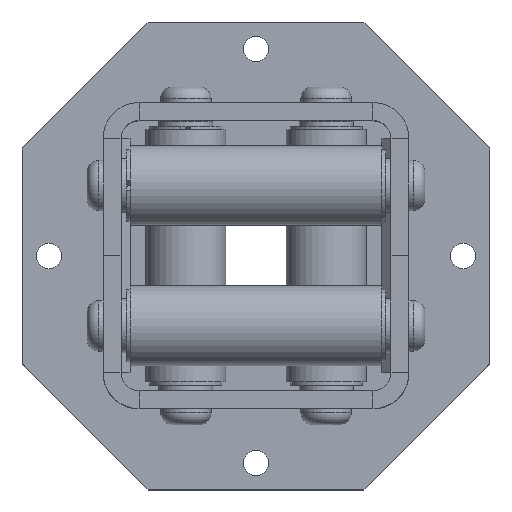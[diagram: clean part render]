
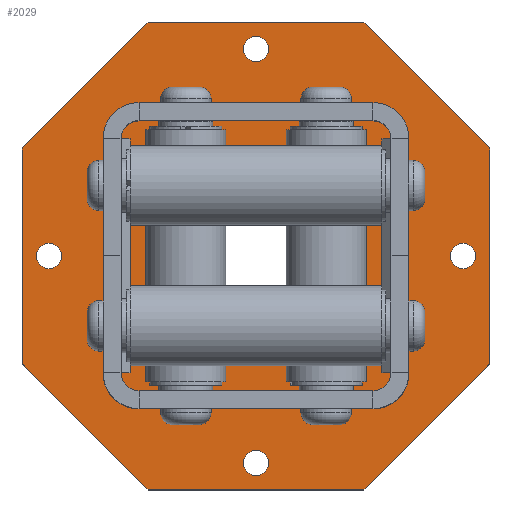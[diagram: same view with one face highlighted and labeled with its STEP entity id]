
A CAD part, top view. The second image highlights one B-rep face of the part: STEP entity #2029.
In plain terms, the highlighted planar face has unit normal (0, 0, 1).
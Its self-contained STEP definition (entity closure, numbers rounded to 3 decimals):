
#147=FACE_BOUND('',#486,.T.);
#148=FACE_BOUND('',#487,.T.);
#149=FACE_BOUND('',#488,.T.);
#150=FACE_BOUND('',#489,.T.);
#151=FACE_BOUND('',#490,.T.);
#181=CIRCLE('',#2324,60.);
#183=CIRCLE('',#2327,7.);
#184=CIRCLE('',#2328,7.);
#186=CIRCLE('',#2331,7.);
#187=CIRCLE('',#2332,7.);
#189=CIRCLE('',#2335,7.);
#190=CIRCLE('',#2336,7.);
#192=CIRCLE('',#2339,7.);
#193=CIRCLE('',#2340,7.);
#367=FACE_OUTER_BOUND('',#485,.T.);
#485=EDGE_LOOP('',(#1480,#1481,#1482,#1483,#1484,#1485,#1486,#1487));
#486=EDGE_LOOP('',(#1488));
#487=EDGE_LOOP('',(#1489,#1490));
#488=EDGE_LOOP('',(#1491,#1492));
#489=EDGE_LOOP('',(#1493,#1494));
#490=EDGE_LOOP('',(#1495,#1496));
#639=LINE('',#3321,#803);
#642=LINE('',#3327,#806);
#645=LINE('',#3333,#809);
#648=LINE('',#3339,#812);
#651=LINE('',#3345,#815);
#654=LINE('',#3351,#818);
#657=LINE('',#3357,#821);
#660=LINE('',#3361,#824);
#803=VECTOR('',#2655,10.);
#806=VECTOR('',#2660,10.);
#809=VECTOR('',#2665,10.);
#812=VECTOR('',#2670,10.);
#815=VECTOR('',#2675,10.);
#818=VECTOR('',#2680,10.);
#821=VECTOR('',#2685,10.);
#824=VECTOR('',#2690,10.);
#954=VERTEX_POINT('',#3277);
#956=VERTEX_POINT('',#3283);
#957=VERTEX_POINT('',#3284);
#959=VERTEX_POINT('',#3291);
#960=VERTEX_POINT('',#3292);
#962=VERTEX_POINT('',#3299);
#963=VERTEX_POINT('',#3300);
#965=VERTEX_POINT('',#3307);
#966=VERTEX_POINT('',#3308);
#970=VERTEX_POINT('',#3318);
#971=VERTEX_POINT('',#3320);
#973=VERTEX_POINT('',#3326);
#975=VERTEX_POINT('',#3332);
#977=VERTEX_POINT('',#3338);
#979=VERTEX_POINT('',#3344);
#981=VERTEX_POINT('',#3350);
#983=VERTEX_POINT('',#3356);
#1135=EDGE_CURVE('',#954,#954,#181,.T.);
#1138=EDGE_CURVE('',#956,#957,#183,.T.);
#1139=EDGE_CURVE('',#957,#956,#184,.T.);
#1142=EDGE_CURVE('',#959,#960,#186,.T.);
#1143=EDGE_CURVE('',#960,#959,#187,.T.);
#1146=EDGE_CURVE('',#962,#963,#189,.T.);
#1147=EDGE_CURVE('',#963,#962,#190,.T.);
#1150=EDGE_CURVE('',#965,#966,#192,.T.);
#1151=EDGE_CURVE('',#966,#965,#193,.T.);
#1156=EDGE_CURVE('',#971,#970,#639,.T.);
#1159=EDGE_CURVE('',#973,#971,#642,.T.);
#1162=EDGE_CURVE('',#975,#973,#645,.T.);
#1165=EDGE_CURVE('',#977,#975,#648,.T.);
#1168=EDGE_CURVE('',#979,#977,#651,.T.);
#1171=EDGE_CURVE('',#981,#979,#654,.T.);
#1174=EDGE_CURVE('',#983,#981,#657,.T.);
#1177=EDGE_CURVE('',#970,#983,#660,.T.);
#1480=ORIENTED_EDGE('',*,*,#1177,.T.);
#1481=ORIENTED_EDGE('',*,*,#1174,.T.);
#1482=ORIENTED_EDGE('',*,*,#1171,.T.);
#1483=ORIENTED_EDGE('',*,*,#1168,.T.);
#1484=ORIENTED_EDGE('',*,*,#1165,.T.);
#1485=ORIENTED_EDGE('',*,*,#1162,.T.);
#1486=ORIENTED_EDGE('',*,*,#1159,.T.);
#1487=ORIENTED_EDGE('',*,*,#1156,.T.);
#1488=ORIENTED_EDGE('',*,*,#1135,.T.);
#1489=ORIENTED_EDGE('',*,*,#1138,.T.);
#1490=ORIENTED_EDGE('',*,*,#1139,.T.);
#1491=ORIENTED_EDGE('',*,*,#1142,.T.);
#1492=ORIENTED_EDGE('',*,*,#1143,.T.);
#1493=ORIENTED_EDGE('',*,*,#1146,.T.);
#1494=ORIENTED_EDGE('',*,*,#1147,.T.);
#1495=ORIENTED_EDGE('',*,*,#1150,.T.);
#1496=ORIENTED_EDGE('',*,*,#1151,.T.);
#1948=PLANE('',#2350);
#2029=ADVANCED_FACE('',(#367,#147,#148,#149,#150,#151),#1948,.T.);
#2324=AXIS2_PLACEMENT_3D('',#3278,#2610,#2611);
#2327=AXIS2_PLACEMENT_3D('',#3285,#2617,#2618);
#2328=AXIS2_PLACEMENT_3D('',#3286,#2619,#2620);
#2331=AXIS2_PLACEMENT_3D('',#3293,#2626,#2627);
#2332=AXIS2_PLACEMENT_3D('',#3294,#2628,#2629);
#2335=AXIS2_PLACEMENT_3D('',#3301,#2635,#2636);
#2336=AXIS2_PLACEMENT_3D('',#3302,#2637,#2638);
#2339=AXIS2_PLACEMENT_3D('',#3309,#2644,#2645);
#2340=AXIS2_PLACEMENT_3D('',#3310,#2646,#2647);
#2350=AXIS2_PLACEMENT_3D('',#3362,#2691,#2692);
#2610=DIRECTION('center_axis',(0.,0.,-1.));
#2611=DIRECTION('ref_axis',(-1.,0.,0.));
#2617=DIRECTION('center_axis',(0.,0.,-1.));
#2618=DIRECTION('ref_axis',(1.,0.,0.));
#2619=DIRECTION('center_axis',(0.,0.,-1.));
#2620=DIRECTION('ref_axis',(1.,0.,0.));
#2626=DIRECTION('center_axis',(0.,0.,-1.));
#2627=DIRECTION('ref_axis',(1.,0.,0.));
#2628=DIRECTION('center_axis',(0.,0.,-1.));
#2629=DIRECTION('ref_axis',(1.,0.,0.));
#2635=DIRECTION('center_axis',(0.,0.,-1.));
#2636=DIRECTION('ref_axis',(1.,0.,0.));
#2637=DIRECTION('center_axis',(0.,0.,-1.));
#2638=DIRECTION('ref_axis',(1.,0.,0.));
#2644=DIRECTION('center_axis',(0.,0.,-1.));
#2645=DIRECTION('ref_axis',(1.,0.,0.));
#2646=DIRECTION('center_axis',(0.,0.,-1.));
#2647=DIRECTION('ref_axis',(1.,0.,0.));
#2655=DIRECTION('',(-0.707,0.707,0.));
#2660=DIRECTION('',(0.,1.,0.));
#2665=DIRECTION('',(0.707,0.707,0.));
#2670=DIRECTION('',(1.,0.,0.));
#2675=DIRECTION('',(0.707,-0.707,0.));
#2680=DIRECTION('',(0.,-1.,0.));
#2685=DIRECTION('',(-0.707,-0.707,0.));
#2690=DIRECTION('',(-1.,0.,0.));
#2691=DIRECTION('center_axis',(0.,0.,1.));
#2692=DIRECTION('ref_axis',(1.,0.,0.));
#3277=CARTESIAN_POINT('',(60.,0.,10.));
#3278=CARTESIAN_POINT('Origin',(0.,0.,10.));
#3283=CARTESIAN_POINT('',(7.,115.,10.));
#3284=CARTESIAN_POINT('',(-7.,115.,10.));
#3285=CARTESIAN_POINT('Origin',(0.,115.,10.));
#3286=CARTESIAN_POINT('Origin',(0.,115.,10.));
#3291=CARTESIAN_POINT('',(-108.,0.,10.));
#3292=CARTESIAN_POINT('',(-122.,0.,10.));
#3293=CARTESIAN_POINT('Origin',(-115.,0.,10.));
#3294=CARTESIAN_POINT('Origin',(-115.,0.,10.));
#3299=CARTESIAN_POINT('',(122.,0.,10.));
#3300=CARTESIAN_POINT('',(108.,0.,10.));
#3301=CARTESIAN_POINT('Origin',(115.,0.,10.));
#3302=CARTESIAN_POINT('Origin',(115.,0.,10.));
#3307=CARTESIAN_POINT('',(7.,-115.,10.));
#3308=CARTESIAN_POINT('',(-7.,-115.,10.));
#3309=CARTESIAN_POINT('Origin',(0.,-115.,10.));
#3310=CARTESIAN_POINT('Origin',(0.,-115.,10.));
#3318=CARTESIAN_POINT('',(60.,130.,10.));
#3320=CARTESIAN_POINT('',(130.,60.,10.));
#3321=CARTESIAN_POINT('',(130.,60.,10.));
#3326=CARTESIAN_POINT('',(130.,-60.,10.));
#3327=CARTESIAN_POINT('',(130.,-60.,10.));
#3332=CARTESIAN_POINT('',(60.,-130.,10.));
#3333=CARTESIAN_POINT('',(60.,-130.,10.));
#3338=CARTESIAN_POINT('',(-60.,-130.,10.));
#3339=CARTESIAN_POINT('',(-60.,-130.,10.));
#3344=CARTESIAN_POINT('',(-130.,-60.,10.));
#3345=CARTESIAN_POINT('',(-130.,-60.,10.));
#3350=CARTESIAN_POINT('',(-130.,60.,10.));
#3351=CARTESIAN_POINT('',(-130.,60.,10.));
#3356=CARTESIAN_POINT('',(-60.,130.,10.));
#3357=CARTESIAN_POINT('',(-60.,130.,10.));
#3361=CARTESIAN_POINT('',(60.,130.,10.));
#3362=CARTESIAN_POINT('Origin',(0.,0.,
10.));
